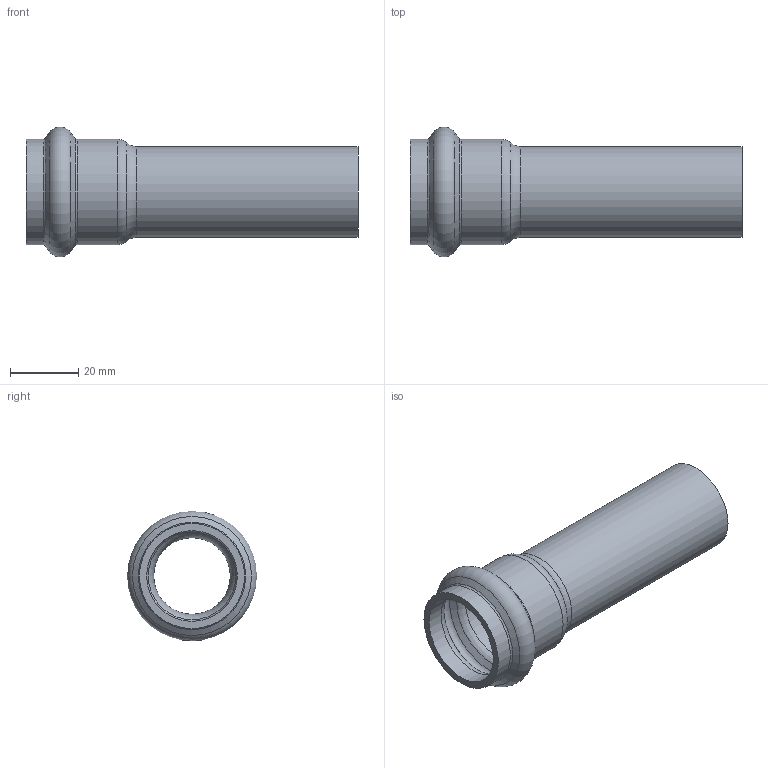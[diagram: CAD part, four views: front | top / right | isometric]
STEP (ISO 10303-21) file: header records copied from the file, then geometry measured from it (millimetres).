
FILE_DESCRIPTION(/* description */ ('VIC WELD ADAPTER STYLE P561 (P X T)','CAx-IF Rec.Pracs.---Representation and Presentation of Product Manufacturing Information (PMI)---4.0---2014-10-13'),/* implementation_level */ '2;1');
FILE_NAME(/* name */ 'C:\Users\Vjadhav\AppData\Roaming\Autodesk\ApplicationPlugins\Back Up\Victaulic_SS-Vic-Press-TP 304_Adapter Weld_Style P561 (VPxPE)\Victaulic_SS-Vic-Press-TP 304_Adapter Weld_Style P561 (VPxPE)_0.75 (20).stp',/* time_stamp */ '2020-08-12T15:21:21+06:00',/* author */ ('cgray'),/* organization */ ('Victaulic'),/* preprocessor_version */ 'ST-DEVELOPER v17.2',/* originating_system */ 'Autodesk Inventor 2019',/* authorisation */ '');
FILE_SCHEMA (('AP242_MANAGED_MODEL_BASED_3D_ENGINEERING_MIM_LF { 1 0 10303 442 1 1 4 }'));
Length unit declared in the file: inch
Products named in the file (1): P561-0.75
Bounding box: 97.54 x 38.12 x 38.12 mm (x, y, z)
Volume: 17679.4 mm3; surface area: 17125.3 mm2
Topology: 1 solids, 1 shells, 22 faces, 80 edges, 60 vertices
Faces by surface type: torus 10, cylinder 6, cone 4, plane 2
Full cylindrical faces by diameter (mm): 22.454 x1, 26.67 x3, 30.886 x2
Entity records: 1092 total; most frequent: DIRECTION 222, CARTESIAN_POINT 180, ORIENTED_EDGE 160, AXIS2_PLACEMENT_3D 106, EDGE_CURVE 80, CIRCLE 70, VERTEX_POINT 60, EDGE_LOOP 24
